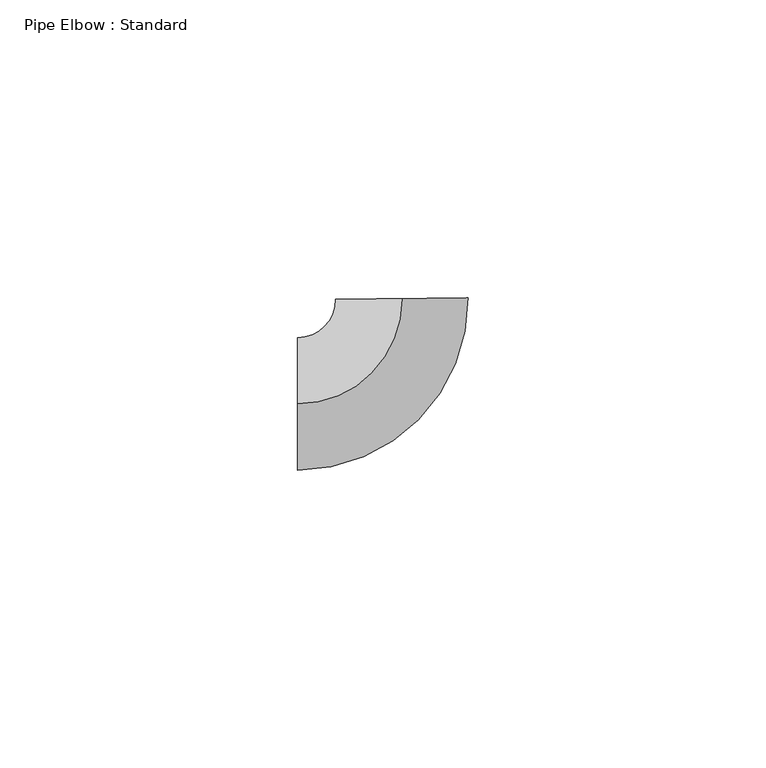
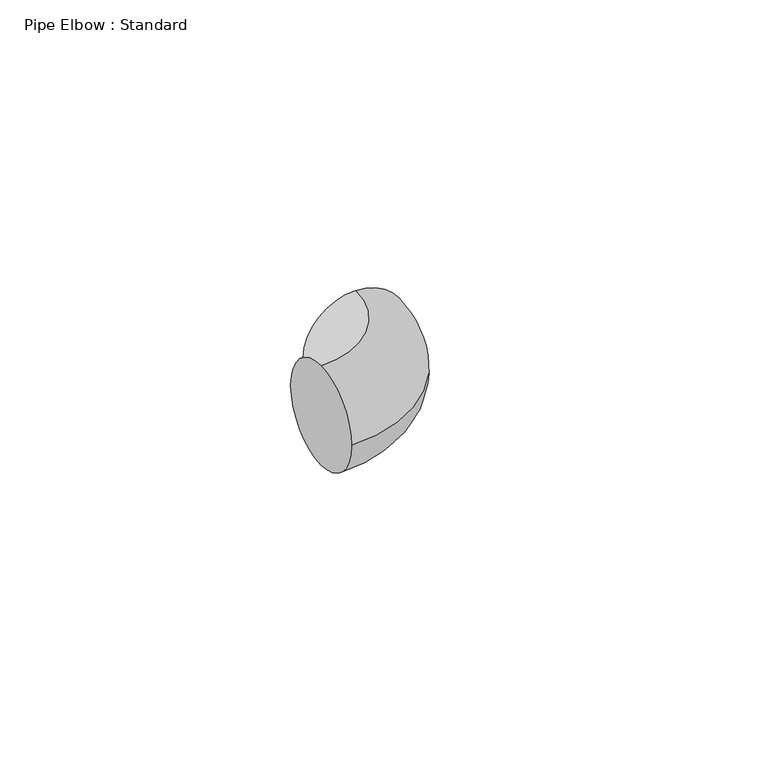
"""IFC4 building model written with IfcOpenShell, lengths in millimetres: pipe fitting geometry, Pipe Elbow : Standard."""

from ifc_helpers import new_model, si_unit, point, frame, origin, place, context, project, spatial, circle_curve, ellipse_curve, trimmed, source, transform, mapped, element, save
from ifc_brep_helpers import plane_surface, revolved_surface, advanced_brep


def pipe_elbow_standard_3cd342b0(model_context):
    return source(origin(), model_context, "Body", "AdvancedBrep", [
        advanced_brep(
        [(-17.6453484, 0.0, 11.1125), (-17.6453484, 11.1125, 0.0), (-17.6453484, 0.0, -11.1125), (-17.6453484, -11.1125, 0.0), (-0.1837957, 17.6443912, 11.1125), (10.9281014, 17.7601401, 0.0), (-0.1837957, 17.6443912, -11.1125), (-11.2956929, 17.5286422, 0.0)],
        [
            (0, 1, circle_curve(frame((-17.6453484, 0.0, 0.0), z_axis=(-1.0, 0.0, 0.0), x_axis=(0.0, 1.0, 0.0)), 11.1125)),
            (1, 2, circle_curve(frame((-17.6453484, 0.0, 0.0), z_axis=(-1.0, 0.0, 0.0), x_axis=(0.0, 1.0, 0.0)), 11.1125)),
            (2, 3, circle_curve(frame((-17.6453484, 0.0, 0.0), z_axis=(-1.0, 0.0, 0.0), x_axis=(0.0, 1.0, 0.0)), 11.1125)),
            (3, 0, circle_curve(frame((-17.6453484, 0.0, 0.0), z_axis=(-1.0, 0.0, 0.0), x_axis=(0.0, 1.0, 0.0)), 11.1125)),
            (4, 5, circle_curve(frame((-0.1837957, 17.6443912, 0.0), z_axis=(-0.01041610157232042, 0.9999457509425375, 0.0), x_axis=(-0.9999457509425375, -0.01041610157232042, 0.0)), 11.1125)),
            (5, 6, circle_curve(frame((-0.1837957, 17.6443912, 0.0), z_axis=(-0.01041610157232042, 0.9999457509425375, 0.0), x_axis=(-0.9999457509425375, -0.01041610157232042, 0.0)), 11.1125)),
            (6, 7, circle_curve(frame((-0.1837957, 17.6443912, 0.0), z_axis=(-0.01041610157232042, 0.9999457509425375, 0.0), x_axis=(-0.9999457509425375, -0.01041610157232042, 0.0)), 11.1125)),
            (7, 4, circle_curve(frame((-0.1837957, 17.6443912, 0.0), z_axis=(-0.01041610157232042, 0.9999457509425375, 0.0), x_axis=(-0.9999457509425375, -0.01041610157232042, 0.0)), 11.1125)),
            (7, 1, circle_curve(frame((-17.6453484, 17.4625, 0.0), z_axis=(0.0, 0.0, -1.0), x_axis=(0.0, -1.0, 0.0)), 6.35)),
            (0, 4, circle_curve(frame((-17.6453484, 17.4625, 11.1125), z_axis=(0.0, 0.0, 1.0), x_axis=(0.0, -1.0, 0.0)), 17.4625)),
            (6, 2, circle_curve(frame((-17.6453484, 17.4625, -11.1125), z_axis=(0.0, 0.0, -1.0), x_axis=(0.0, -1.0, 0.0)), 17.4625)),
            (5, 3, circle_curve(frame((-17.6453484, 17.4625, 0.0), z_axis=(0.0, 0.0, -1.0), x_axis=(0.0, -1.0, 0.0)), 28.575)),
        ],
        [
            plane_surface(frame((-17.6453484, 0.0, 0.0), z_axis=(-1.0, 0.0, 0.0), x_axis=(0.0, 0.0, 1.0))),
            plane_surface(frame((-0.1837957, 17.6443912, 0.0), z_axis=(-0.010416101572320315, 0.9999457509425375, 0.0), x_axis=(0.0, 0.0, 1.0))),
            revolved_surface(trimmed(ellipse_curve(frame((-17.6453484, 0.0, 0.0), z_axis=(-1.0, 0.0, 0.0), x_axis=(0.0, 1.0, 0.0)), 11.1125, 11.1125), [point((-17.6453484, 0.0, 11.1125))], [point((-17.6453484, 11.1125, 0.0))], True, "CARTESIAN"), (-17.6453484, 17.4625, 0.0), (0.0, 0.0, 1.0)),
            revolved_surface(trimmed(ellipse_curve(frame((-17.6453484, 0.0, 0.0), z_axis=(-1.0, 0.0, 0.0), x_axis=(0.0, 1.0, 0.0)), 11.1125, 11.1125), [point((-17.6453484, 11.1125, 0.0))], [point((-17.6453484, 0.0, -11.1125))], True, "CARTESIAN"), (-17.6453484, 17.4625, 0.0), (0.0, 0.0, 1.0)),
            revolved_surface(trimmed(ellipse_curve(frame((-17.6453484, 0.0, 0.0), z_axis=(-1.0, 0.0, 0.0), x_axis=(0.0, 1.0, 0.0)), 11.1125, 11.1125), [point((-17.6453484, 0.0, -11.1125))], [point((-17.6453484, -11.1125, 0.0))], True, "CARTESIAN"), (-17.6453484, 17.4625, 0.0), (0.0, 0.0, 1.0)),
            revolved_surface(trimmed(ellipse_curve(frame((-17.6453484, 0.0, 0.0), z_axis=(-1.0, 0.0, 0.0), x_axis=(0.0, 1.0, 0.0)), 11.1125, 11.1125), [point((-17.6453484, -11.1125, 0.0))], [point((-17.6453484, 0.0, 11.1125))], True, "CARTESIAN"), (-17.6453484, 17.4625, 0.0), (0.0, 0.0, 1.0)),
        ],
        [
            (0, [[1, 2, 3, 4]]),
            (1, [[5, 6, 7, 8]]),
            (2, [[9, -1, 10, -8]]),
            (3, [[11, -2, -9, -7]]),
            (4, [[12, -3, -11, -6]]),
            (5, [[-10, -4, -12, -5]]),
        ],
    ),
        advanced_brep(
        [(-17.6453484, 0.0, 11.1125), (-17.6453484, 11.1125, 0.0), (-17.6453484, 0.0, -11.1125), (-17.6453484, -11.1125, 0.0), (-0.1837957, 17.6443912, 11.1125), (10.9281014, 17.7601401, 0.0), (-0.1837957, 17.6443912, -11.1125), (-11.2956929, 17.5286422, 0.0)],
        [
            (0, 1, circle_curve(frame((-17.6453484, 0.0, 0.0), z_axis=(-1.0, 0.0, 0.0), x_axis=(0.0, 1.0, 0.0)), 11.1125)),
            (1, 2, circle_curve(frame((-17.6453484, 0.0, 0.0), z_axis=(-1.0, 0.0, 0.0), x_axis=(0.0, 1.0, 0.0)), 11.1125)),
            (2, 3, circle_curve(frame((-17.6453484, 0.0, 0.0), z_axis=(-1.0, 0.0, 0.0), x_axis=(0.0, 1.0, 0.0)), 11.1125)),
            (3, 0, circle_curve(frame((-17.6453484, 0.0, 0.0), z_axis=(-1.0, 0.0, 0.0), x_axis=(0.0, 1.0, 0.0)), 11.1125)),
            (4, 5, circle_curve(frame((-0.1837957, 17.6443912, 0.0), z_axis=(-0.01041610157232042, 0.9999457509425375, 0.0), x_axis=(-0.9999457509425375, -0.01041610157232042, 0.0)), 11.1125)),
            (5, 6, circle_curve(frame((-0.1837957, 17.6443912, 0.0), z_axis=(-0.01041610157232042, 0.9999457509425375, 0.0), x_axis=(-0.9999457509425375, -0.01041610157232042, 0.0)), 11.1125)),
            (6, 7, circle_curve(frame((-0.1837957, 17.6443912, 0.0), z_axis=(-0.01041610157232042, 0.9999457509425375, 0.0), x_axis=(-0.9999457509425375, -0.01041610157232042, 0.0)), 11.1125)),
            (7, 4, circle_curve(frame((-0.1837957, 17.6443912, 0.0), z_axis=(-0.01041610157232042, 0.9999457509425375, 0.0), x_axis=(-0.9999457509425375, -0.01041610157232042, 0.0)), 11.1125)),
            (7, 1, circle_curve(frame((-17.6453484, 17.4625, 0.0), z_axis=(0.0, 0.0, -1.0), x_axis=(0.0, -1.0, 0.0)), 6.35)),
            (0, 4, circle_curve(frame((-17.6453484, 17.4625, 11.1125), z_axis=(0.0, 0.0, 1.0), x_axis=(0.0, -1.0, 0.0)), 17.4625)),
            (6, 2, circle_curve(frame((-17.6453484, 17.4625, -11.1125), z_axis=(0.0, 0.0, -1.0), x_axis=(0.0, -1.0, 0.0)), 17.4625)),
            (5, 3, circle_curve(frame((-17.6453484, 17.4625, 0.0), z_axis=(0.0, 0.0, -1.0), x_axis=(0.0, -1.0, 0.0)), 28.575)),
        ],
        [
            plane_surface(frame((-17.6453484, 0.0, 0.0), z_axis=(-1.0, 0.0, 0.0), x_axis=(0.0, 0.0, 1.0))),
            plane_surface(frame((-0.1837957, 17.6443912, 0.0), z_axis=(-0.010416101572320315, 0.9999457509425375, 0.0), x_axis=(0.0, 0.0, 1.0))),
            revolved_surface(trimmed(ellipse_curve(frame((-17.6453484, 0.0, 0.0), z_axis=(-1.0, 0.0, 0.0), x_axis=(0.0, 1.0, 0.0)), 11.1125, 11.1125), [point((-17.6453484, 0.0, 11.1125))], [point((-17.6453484, 11.1125, 0.0))], True, "CARTESIAN"), (-17.6453484, 17.4625, 0.0), (0.0, 0.0, 1.0)),
            revolved_surface(trimmed(ellipse_curve(frame((-17.6453484, 0.0, 0.0), z_axis=(-1.0, 0.0, 0.0), x_axis=(0.0, 1.0, 0.0)), 11.1125, 11.1125), [point((-17.6453484, 11.1125, 0.0))], [point((-17.6453484, 0.0, -11.1125))], True, "CARTESIAN"), (-17.6453484, 17.4625, 0.0), (0.0, 0.0, 1.0)),
            revolved_surface(trimmed(ellipse_curve(frame((-17.6453484, 0.0, 0.0), z_axis=(-1.0, 0.0, 0.0), x_axis=(0.0, 1.0, 0.0)), 11.1125, 11.1125), [point((-17.6453484, 0.0, -11.1125))], [point((-17.6453484, -11.1125, 0.0))], True, "CARTESIAN"), (-17.6453484, 17.4625, 0.0), (0.0, 0.0, 1.0)),
            revolved_surface(trimmed(ellipse_curve(frame((-17.6453484, 0.0, 0.0), z_axis=(-1.0, 0.0, 0.0), x_axis=(0.0, 1.0, 0.0)), 11.1125, 11.1125), [point((-17.6453484, -11.1125, 0.0))], [point((-17.6453484, 0.0, 11.1125))], True, "CARTESIAN"), (-17.6453484, 17.4625, 0.0), (0.0, 0.0, 1.0)),
        ],
        [
            (0, [[1, 2, 3, 4]]),
            (1, [[5, 6, 7, 8]]),
            (2, [[9, -1, 10, -8]]),
            (3, [[11, -2, -9, -7]]),
            (4, [[12, -3, -11, -6]]),
            (5, [[-10, -4, -12, -5]]),
        ],
    ),
    ])


if __name__ == "__main__":
    model = new_model("IFC4")
    model_context = context("Model", 3, world=origin())
    ifc_project = project(units=[si_unit("LENGTHUNIT", "METRE", prefix="MILLI")], contexts=[model_context])
    site = spatial("IfcSite", under=ifc_project)
    building = spatial("IfcBuilding", under=site)
    placement = place(None, origin())
    pipe_elbow_standard_shape = pipe_elbow_standard_3cd342b0(model_context)
    element("IfcPipeFitting", 1, ObjectType="Pipe Elbow : Standard", at=placement, inside=building, context=model_context, shape_type="MappedRepresentation", body=[
        mapped(pipe_elbow_standard_shape, transform((0.0, 0.0, 0.0), x_axis=(1.0, 0.0, 0.0), y_axis=(0.0, 1.0, 0.0), z_axis=(0.0, 0.0, 1.0))),
    ])
    save(model, "model.ifc")
